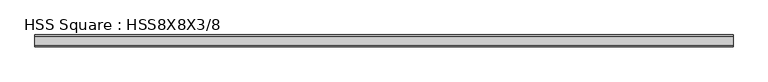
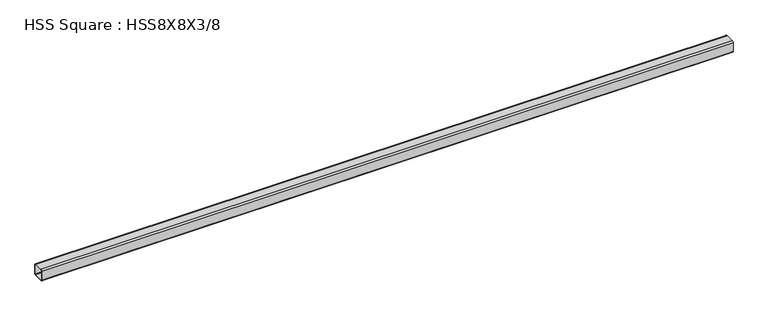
"""IFC4 building model written with IfcOpenShell, lengths in millimetres: beam geometry, HSS Square : HSS8X8X3/8."""

from ifc_helpers import new_model, si_unit, point, frame, frame_2d, origin, place, context, project, spatial, polyline, circle_curve, trimmed, segment, composite_curve, outline, extrude, source, transform, mapped, element, save


def hss_square_hss8x8x3_8_c1e108ad(model_context):
    return source(origin(), model_context, "Body", "SweptSolid", [
        extrude(outline(composite_curve([segment(polyline([(101.6, 82.55), (101.6, -82.55)]), True, "CONTINUOUS"), segment(trimmed(circle_curve(frame_2d((82.55, -82.55)), 19.05), [point((101.6, -82.55))], [point((82.55, -101.6))], False, "CARTESIAN"), True, "CONTINUOUS"), segment(polyline([(82.55, -101.6), (-82.55, -101.6)]), True, "CONTINUOUS"), segment(trimmed(circle_curve(frame_2d((-82.55, -82.55)), 19.05), [point((-82.55, -101.6))], [point((-101.6, -82.55))], False, "CARTESIAN"), True, "CONTINUOUS"), segment(polyline([(-101.6, -82.55), (-101.6, 82.55)]), True, "CONTINUOUS"), segment(trimmed(circle_curve(frame_2d((-82.55, 82.55)), 19.05), [point((-101.6, 82.55))], [point((-82.55, 101.6))], False, "CARTESIAN"), True, "CONTINUOUS"), segment(polyline([(-82.55, 101.6), (82.55, 101.6)]), True, "CONTINUOUS"), segment(trimmed(circle_curve(frame_2d((82.55, 82.55)), 19.05), [point((82.55, 101.6))], [point((101.6, 82.55))], False, "CARTESIAN"), True, "CONTINUOUS")], self_intersect=False), holes=[composite_curve([segment(trimmed(circle_curve(frame_2d((-82.55, 82.55)), 9.525), [point((-82.55, 92.075))], [point((-92.075, 82.55))], True, "CARTESIAN"), True, "CONTINUOUS"), segment(polyline([(-92.075, 82.55), (-92.075, -82.55)]), True, "CONTINUOUS"), segment(trimmed(circle_curve(frame_2d((-82.55, -82.55)), 9.525), [point((-92.075, -82.55))], [point((-82.55, -92.075))], True, "CARTESIAN"), True, "CONTINUOUS"), segment(polyline([(-82.55, -92.075), (82.55, -92.075)]), True, "CONTINUOUS"), segment(trimmed(circle_curve(frame_2d((82.55, -82.55)), 9.525), [point((82.55, -92.075))], [point((92.075, -82.55))], True, "CARTESIAN"), True, "CONTINUOUS"), segment(polyline([(92.075, -82.55), (92.075, 82.55)]), True, "CONTINUOUS"), segment(trimmed(circle_curve(frame_2d((82.55, 82.55)), 9.525), [point((92.075, 82.55))], [point((82.55, 92.075))], True, "CARTESIAN"), True, "CONTINUOUS"), segment(polyline([(82.55, 92.075), (-82.55, 92.075)]), True, "CONTINUOUS")], self_intersect=False)]), frame((-5952.9053622, 0.0, 0.0), z_axis=(1.0, 0.0, 0.0), x_axis=(0.0, 1.0, 0.0)), (0.0, 0.0, 1.0), 12070.9107243),
    ])


if __name__ == "__main__":
    model = new_model("IFC4")
    model_context = context("Model", 3, world=origin())
    ifc_project = project(units=[si_unit("LENGTHUNIT", "METRE", prefix="MILLI")], contexts=[model_context])
    site = spatial("IfcSite", under=ifc_project)
    building = spatial("IfcBuilding", under=site)
    placement = place(None, origin())
    hss_square_hss8x8x3_8_shape = hss_square_hss8x8x3_8_c1e108ad(model_context)
    element("IfcBeam", 1, ObjectType="HSS Square : HSS8X8X3/8", at=placement, inside=building, context=model_context, shape_type="MappedRepresentation", body=[
        mapped(hss_square_hss8x8x3_8_shape, transform((0.0, 0.0, 0.0), x_axis=(1.0, 0.0, 0.0), y_axis=(0.0, 1.0, 0.0), z_axis=(0.0, 0.0, 1.0))),
    ])
    save(model, "model.ifc")
